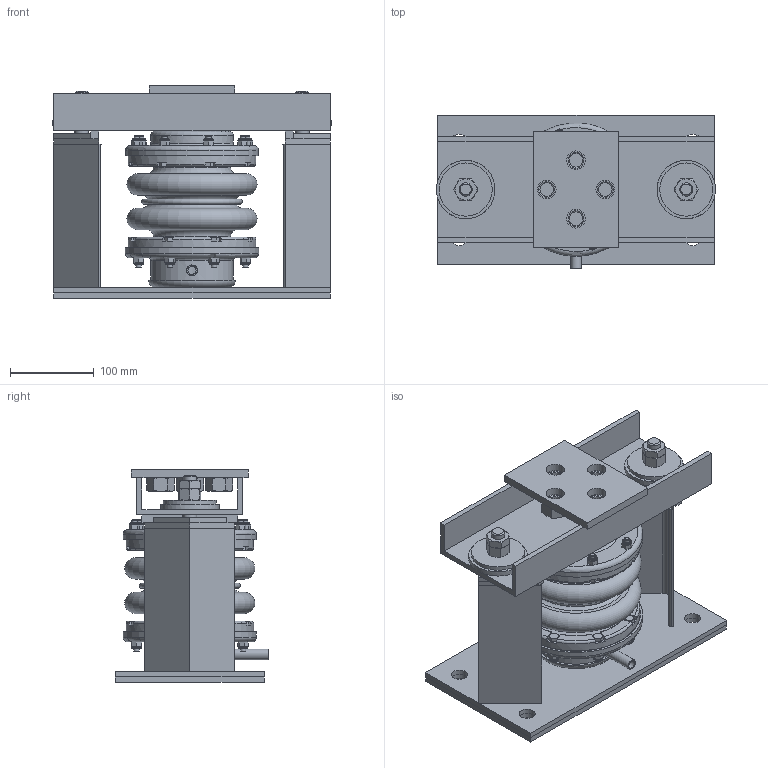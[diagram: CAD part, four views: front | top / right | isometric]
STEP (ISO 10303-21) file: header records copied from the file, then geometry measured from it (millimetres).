
FILE_DESCRIPTION(/* description */ (''),/* implementation_level */ '2;1');
FILE_NAME(/* name */ 'C:\001_Work\Designs\SLR MT\SLR-MT-3.stp',/* time_stamp */ '2016-06-12T12:30:09-04:00',/* author */ ('rramoutar'),/* organization */ ('Mason Industries Inc.'),/* preprocessor_version */ 'ST-DEVELOPER v15.6',/* originating_system */ 'Autodesk Inventor 2015',/* authorisation */ '');
FILE_SCHEMA (('CONFIG_CONTROL_DESIGN'));
Products named in the file (1): SLR-MT-3 ASSEMBLY
Bounding box: 333.38 x 183 x 254 mm (x, y, z)
Volume: 2842808.2 mm3; surface area: 793408.6 mm2
Topology: 2 solids, 9 shells, 1639 faces, 4078 edges, 2540 vertices
Faces by surface type: plane 1061, cone 261, cylinder 219, torus 98
Full cylindrical faces by diameter (mm): 6.35 x32, 6.604 x16, 6.747 x16, 7 x16, 7.144 x16, 9.525 x2, 9.6 x1, 10.592 x1, 11.112 x16, 11.125 x16, 12.6 x1, 13 x1, 15.875 x6, 16.307 x6, 17.462 x4, 19.05 x8, 20 x1, 20.93 x1, 22.225 x4, 23.825 x2, 25.4 x1, 26 x1, 26.67 x1, 34.925 x2, 41.275 x2, 46 x1, 52 x1, 63.5 x2, 69.85 x2, 72 x1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
Entity records: 47857 total; most frequent: CARTESIAN_POINT 10940, DIRECTION 7502, ORIENTED_EDGE 7136, EDGE_CURVE 3568, AXIS2_PLACEMENT_3D 3009, VERTEX_POINT 2352, EDGE_LOOP 2124, FACE_OUTER_BOUND 1639
